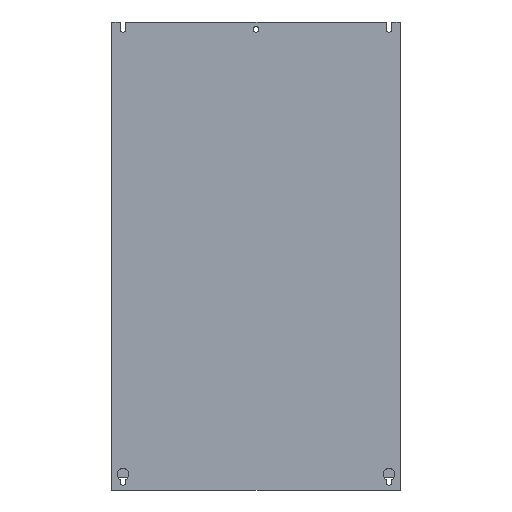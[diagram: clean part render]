
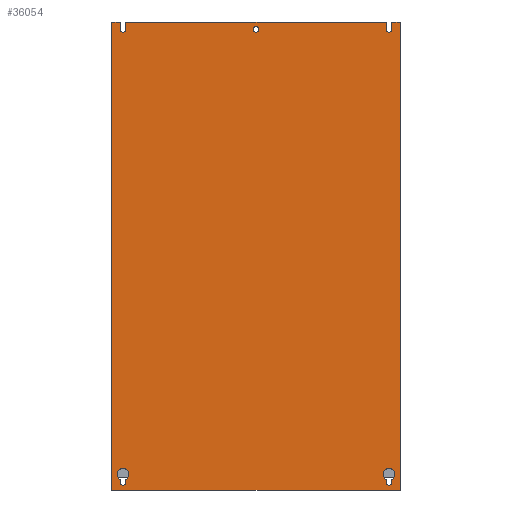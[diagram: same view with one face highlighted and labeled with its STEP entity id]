
A CAD part, front view. The second image highlights one B-rep face of the part: STEP entity #36054.
In plain terms, the highlighted planar face has unit normal (0, -1, 0).
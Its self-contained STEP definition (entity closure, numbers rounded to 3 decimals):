
#22815=DIRECTION('',(1.,0.,0.));
#22816=VECTOR('',#22815,16.75);
#22817=CARTESIAN_POINT('',(0.,0.,950.));
#22818=LINE('',#22817,#22816);
#22819=DIRECTION('',(0.,0.,-1.));
#22820=VECTOR('',#22819,15.);
#22821=CARTESIAN_POINT('',(16.75,0.,950.));
#22822=LINE('',#22821,#22820);
#22823=CARTESIAN_POINT('',(22.5,0.,935.));
#22824=DIRECTION('',(0.,-1.,0.));
#22825=DIRECTION('',(-1.,0.,0.));
#22826=AXIS2_PLACEMENT_3D('',#22823,#22824,#22825);
#22828=DIRECTION('',(0.,0.,1.));
#22829=VECTOR('',#22828,15.);
#22830=CARTESIAN_POINT('',(28.25,0.,935.));
#22831=LINE('',#22830,#22829);
#22832=DIRECTION('',(1.,0.,0.));
#22833=VECTOR('',#22832,528.5);
#22834=CARTESIAN_POINT('',(28.25,0.,950.));
#22835=LINE('',#22834,#22833);
#22836=DIRECTION('',(0.,0.,-1.));
#22837=VECTOR('',#22836,15.);
#22838=CARTESIAN_POINT('',(556.75,0.,950.));
#22839=LINE('',#22838,#22837);
#22840=CARTESIAN_POINT('',(562.5,0.,935.));
#22841=DIRECTION('',(0.,-1.,0.));
#22842=DIRECTION('',(-1.,0.,0.));
#22843=AXIS2_PLACEMENT_3D('',#22840,#22841,#22842);
#22845=DIRECTION('',(0.,0.,1.));
#22846=VECTOR('',#22845,15.);
#22847=CARTESIAN_POINT('',(568.25,0.,935.));
#22848=LINE('',#22847,#22846);
#22849=DIRECTION('',(1.,0.,0.));
#22850=VECTOR('',#22849,16.75);
#22851=CARTESIAN_POINT('',(568.25,0.,950.));
#22852=LINE('',#22851,#22850);
#22853=DIRECTION('',(0.,0.,1.));
#22854=VECTOR('',#22853,6.335);
#22855=CARTESIAN_POINT('',(28.,0.,15.));
#22856=LINE('',#22855,#22854);
#22857=CARTESIAN_POINT('',(22.5,0.,32.));
#22858=DIRECTION('',(0.,-1.,0.));
#22859=DIRECTION('',(0.458,0.,-0.889));
#22860=AXIS2_PLACEMENT_3D('',#22857,#22858,#22859);
#22862=CARTESIAN_POINT('',(22.5,0.,32.));
#22863=DIRECTION('',(0.,-1.,0.));
#22864=DIRECTION('',(1.,0.,0.));
#22865=AXIS2_PLACEMENT_3D('',#22862,#22863,#22864);
#22867=CARTESIAN_POINT('',(22.5,0.,32.));
#22868=DIRECTION('',(0.,-1.,0.));
#22869=DIRECTION('',(-0.458,0.,0.889));
#22870=AXIS2_PLACEMENT_3D('',#22867,#22868,#22869);
#22872=CARTESIAN_POINT('',(22.5,0.,32.));
#22873=DIRECTION('',(0.,-1.,0.));
#22874=DIRECTION('',(-1.,0.,0.));
#22875=AXIS2_PLACEMENT_3D('',#22872,#22873,#22874);
#22877=DIRECTION('',(0.,0.,-1.));
#22878=VECTOR('',#22877,6.335);
#22879=CARTESIAN_POINT('',(17.,0.,21.335));
#22880=LINE('',#22879,#22878);
#22881=CARTESIAN_POINT('',(22.5,0.,15.));
#22882=DIRECTION('',(0.,-1.,0.));
#22883=DIRECTION('',(-1.,0.,0.));
#22884=AXIS2_PLACEMENT_3D('',#22881,#22882,#22883);
#22886=CARTESIAN_POINT('',(562.5,0.,15.));
#22887=DIRECTION('',(0.,-1.,0.));
#22888=DIRECTION('',(-1.,0.,0.));
#22889=AXIS2_PLACEMENT_3D('',#22886,#22887,#22888);
#22891=DIRECTION('',(0.,0.,1.));
#22892=VECTOR('',#22891,6.335);
#22893=CARTESIAN_POINT('',(568.,0.,15.));
#22894=LINE('',#22893,#22892);
#22895=CARTESIAN_POINT('',(562.5,0.,32.));
#22896=DIRECTION('',(0.,-1.,0.));
#22897=DIRECTION('',(0.458,0.,-0.889));
#22898=AXIS2_PLACEMENT_3D('',#22895,#22896,#22897);
#22900=CARTESIAN_POINT('',(562.5,0.,32.));
#22901=DIRECTION('',(0.,-1.,0.));
#22902=DIRECTION('',(1.,0.,0.));
#22903=AXIS2_PLACEMENT_3D('',#22900,#22901,#22902);
#22905=CARTESIAN_POINT('',(562.5,0.,32.));
#22906=DIRECTION('',(0.,-1.,0.));
#22907=DIRECTION('',(-0.458,0.,0.889));
#22908=AXIS2_PLACEMENT_3D('',#22905,#22906,#22907);
#22910=CARTESIAN_POINT('',(562.5,0.,32.));
#22911=DIRECTION('',(0.,-1.,0.));
#22912=DIRECTION('',(-1.,0.,0.));
#22913=AXIS2_PLACEMENT_3D('',#22910,#22911,#22912);
#22915=DIRECTION('',(0.,0.,-1.));
#22916=VECTOR('',#22915,6.335);
#22917=CARTESIAN_POINT('',(557.,0.,21.335));
#22918=LINE('',#22917,#22916);
#22919=CARTESIAN_POINT('',(292.5,0.,935.));
#22920=DIRECTION('',(0.,-1.,0.));
#22921=DIRECTION('',(-1.,0.,0.));
#22922=AXIS2_PLACEMENT_3D('',#22919,#22920,#22921);
#22924=CARTESIAN_POINT('',(292.5,0.,935.));
#22925=DIRECTION('',(0.,-1.,0.));
#22926=DIRECTION('',(1.,0.,0.));
#22927=AXIS2_PLACEMENT_3D('',#22924,#22925,#22926);
#22933=DIRECTION('',(0.,0.,1.));
#22934=VECTOR('',#22933,950.);
#22935=CARTESIAN_POINT('',(585.,0.,0.));
#22936=LINE('',#22935,#22934);
#23001=DIRECTION('',(1.,0.,0.));
#23002=VECTOR('',#23001,585.);
#23003=CARTESIAN_POINT('',(0.,0.,0.));
#23004=LINE('',#23003,#23002);
#23545=DIRECTION('',(0.,0.,-1.));
#23546=VECTOR('',#23545,950.);
#23547=CARTESIAN_POINT('',(0.,0.,950.));
#23548=LINE('',#23547,#23546);
#33008=CARTESIAN_POINT('',(556.75,0.,935.));
#33009=CARTESIAN_POINT('',(568.25,0.,935.));
#33010=VERTEX_POINT('',#33008);
#33011=VERTEX_POINT('',#33009);
#33012=CARTESIAN_POINT('',(585.,0.,0.));
#33013=CARTESIAN_POINT('',(585.,0.,950.));
#33014=VERTEX_POINT('',#33012);
#33015=VERTEX_POINT('',#33013);
#33016=CARTESIAN_POINT('',(0.,0.,0.));
#33017=VERTEX_POINT('',#33016);
#33018=CARTESIAN_POINT('',(0.,0.,950.));
#33019=VERTEX_POINT('',#33018);
#33020=CARTESIAN_POINT('',(16.75,0.,950.));
#33021=VERTEX_POINT('',#33020);
#33022=CARTESIAN_POINT('',(16.75,0.,935.));
#33023=VERTEX_POINT('',#33022);
#33024=CARTESIAN_POINT('',(28.25,0.,935.));
#33025=VERTEX_POINT('',#33024);
#33026=CARTESIAN_POINT('',(28.25,0.,950.));
#33027=VERTEX_POINT('',#33026);
#33028=CARTESIAN_POINT('',(556.75,0.,950.));
#33029=VERTEX_POINT('',#33028);
#33030=CARTESIAN_POINT('',(568.25,0.,950.));
#33031=VERTEX_POINT('',#33030);
#33032=CARTESIAN_POINT('',(28.,0.,15.));
#33033=CARTESIAN_POINT('',(28.,0.,21.335));
#33034=VERTEX_POINT('',#33032);
#33035=VERTEX_POINT('',#33033);
#33036=CARTESIAN_POINT('',(34.5,0.,32.));
#33037=VERTEX_POINT('',#33036);
#33038=CARTESIAN_POINT('',(17.,0.,42.665));
#33039=VERTEX_POINT('',#33038);
#33040=CARTESIAN_POINT('',(10.5,0.,32.));
#33041=VERTEX_POINT('',#33040);
#33042=CARTESIAN_POINT('',(17.,0.,21.335));
#33043=VERTEX_POINT('',#33042);
#33044=CARTESIAN_POINT('',(17.,0.,15.));
#33045=VERTEX_POINT('',#33044);
#33046=CARTESIAN_POINT('',(557.,0.,15.));
#33047=CARTESIAN_POINT('',(568.,0.,15.));
#33048=VERTEX_POINT('',#33046);
#33049=VERTEX_POINT('',#33047);
#33050=CARTESIAN_POINT('',(568.,0.,21.335));
#33051=VERTEX_POINT('',#33050);
#33052=CARTESIAN_POINT('',(574.5,0.,32.));
#33053=VERTEX_POINT('',#33052);
#33054=CARTESIAN_POINT('',(557.,0.,42.665));
#33055=VERTEX_POINT('',#33054);
#33056=CARTESIAN_POINT('',(550.5,0.,32.));
#33057=VERTEX_POINT('',#33056);
#33058=CARTESIAN_POINT('',(557.,0.,21.335));
#33059=VERTEX_POINT('',#33058);
#33060=CARTESIAN_POINT('',(286.75,0.,935.));
#33061=CARTESIAN_POINT('',(298.25,0.,935.));
#33062=VERTEX_POINT('',#33060);
#33063=VERTEX_POINT('',#33061);
#35986=CARTESIAN_POINT('',(36.5,0.,895.));
#35987=DIRECTION('',(0.,1.,0.));
#35988=DIRECTION('',(0.,0.,1.));
#35989=AXIS2_PLACEMENT_3D('',#35986,#35987,#35988);
#35990=PLANE('',#35989);
#35992=ORIENTED_EDGE('',*,*,#35991,.F.);
#35994=ORIENTED_EDGE('',*,*,#35993,.F.);
#35996=ORIENTED_EDGE('',*,*,#35995,.F.);
#35998=ORIENTED_EDGE('',*,*,#35997,.T.);
#36000=ORIENTED_EDGE('',*,*,#35999,.T.);
#36002=ORIENTED_EDGE('',*,*,#36001,.T.);
#36004=ORIENTED_EDGE('',*,*,#36003,.T.);
#36006=ORIENTED_EDGE('',*,*,#36005,.T.);
#36008=ORIENTED_EDGE('',*,*,#36007,.T.);
#36009=ORIENTED_EDGE('',*,*,#35976,.T.);
#36011=ORIENTED_EDGE('',*,*,#36010,.T.);
#36013=ORIENTED_EDGE('',*,*,#36012,.T.);
#36014=EDGE_LOOP('',(#35992,#35994,#35996,#35998,#36000,#36002,#36004,#36006,
#36008,#36009,#36011,#36013));
#36015=FACE_OUTER_BOUND('',#36014,.F.);
#36017=ORIENTED_EDGE('',*,*,#36016,.T.);
#36019=ORIENTED_EDGE('',*,*,#36018,.T.);
#36021=ORIENTED_EDGE('',*,*,#36020,.T.);
#36023=ORIENTED_EDGE('',*,*,#36022,.T.);
#36025=ORIENTED_EDGE('',*,*,#36024,.T.);
#36027=ORIENTED_EDGE('',*,*,#36026,.T.);
#36029=ORIENTED_EDGE('',*,*,#36028,.T.);
#36030=EDGE_LOOP('',(#36017,#36019,#36021,#36023,#36025,#36027,#36029));
#36031=FACE_BOUND('',#36030,.F.);
#36033=ORIENTED_EDGE('',*,*,#36032,.T.);
#36035=ORIENTED_EDGE('',*,*,#36034,.T.);
#36037=ORIENTED_EDGE('',*,*,#36036,.T.);
#36039=ORIENTED_EDGE('',*,*,#36038,.T.);
#36041=ORIENTED_EDGE('',*,*,#36040,.T.);
#36043=ORIENTED_EDGE('',*,*,#36042,.T.);
#36045=ORIENTED_EDGE('',*,*,#36044,.T.);
#36046=EDGE_LOOP('',(#36033,#36035,#36037,#36039,#36041,#36043,#36045));
#36047=FACE_BOUND('',#36046,.F.);
#36049=ORIENTED_EDGE('',*,*,#36048,.T.);
#36051=ORIENTED_EDGE('',*,*,#36050,.T.);
#36052=EDGE_LOOP('',(#36049,#36051));
#36053=FACE_BOUND('',#36052,.F.);
#22827=CIRCLE('',#22826,5.75);
#22844=CIRCLE('',#22843,5.75);
#22861=CIRCLE('',#22860,12.);
#22866=CIRCLE('',#22865,12.);
#22871=CIRCLE('',#22870,12.);
#22876=CIRCLE('',#22875,12.);
#22885=CIRCLE('',#22884,5.5);
#22890=CIRCLE('',#22889,5.5);
#22899=CIRCLE('',#22898,12.);
#22904=CIRCLE('',#22903,12.);
#22909=CIRCLE('',#22908,12.);
#22914=CIRCLE('',#22913,12.);
#22923=CIRCLE('',#22922,5.75);
#22928=CIRCLE('',#22927,5.75);
#35976=EDGE_CURVE('',#33010,#33011,#22844,.T.);
#35991=EDGE_CURVE('',#33014,#33015,#22936,.T.);
#35993=EDGE_CURVE('',#33017,#33014,#23004,.T.);
#35995=EDGE_CURVE('',#33019,#33017,#23548,.T.);
#35997=EDGE_CURVE('',#33019,#33021,#22818,.T.);
#35999=EDGE_CURVE('',#33021,#33023,#22822,.T.);
#36001=EDGE_CURVE('',#33023,#33025,#22827,.T.);
#36003=EDGE_CURVE('',#33025,#33027,#22831,.T.);
#36005=EDGE_CURVE('',#33027,#33029,#22835,.T.);
#36007=EDGE_CURVE('',#33029,#33010,#22839,.T.);
#36010=EDGE_CURVE('',#33011,#33031,#22848,.T.);
#36012=EDGE_CURVE('',#33031,#33015,#22852,.T.);
#36016=EDGE_CURVE('',#33034,#33035,#22856,.T.);
#36018=EDGE_CURVE('',#33035,#33037,#22861,.T.);
#36020=EDGE_CURVE('',#33037,#33039,#22866,.T.);
#36022=EDGE_CURVE('',#33039,#33041,#22871,.T.);
#36024=EDGE_CURVE('',#33041,#33043,#22876,.T.);
#36026=EDGE_CURVE('',#33043,#33045,#22880,.T.);
#36028=EDGE_CURVE('',#33045,#33034,#22885,.T.);
#36032=EDGE_CURVE('',#33048,#33049,#22890,.T.);
#36034=EDGE_CURVE('',#33049,#33051,#22894,.T.);
#36036=EDGE_CURVE('',#33051,#33053,#22899,.T.);
#36038=EDGE_CURVE('',#33053,#33055,#22904,.T.);
#36040=EDGE_CURVE('',#33055,#33057,#22909,.T.);
#36042=EDGE_CURVE('',#33057,#33059,#22914,.T.);
#36044=EDGE_CURVE('',#33059,#33048,#22918,.T.);
#36048=EDGE_CURVE('',#33062,#33063,#22923,.T.);
#36050=EDGE_CURVE('',#33063,#33062,#22928,.T.);
#36054=ADVANCED_FACE('',(#36015,#36031,#36047,#36053),#35990,.F.);
